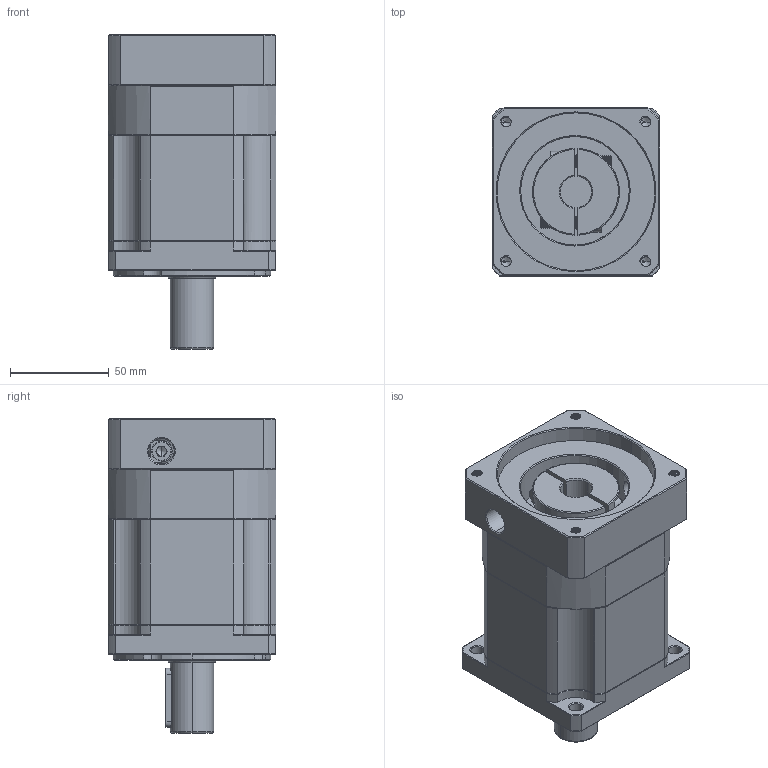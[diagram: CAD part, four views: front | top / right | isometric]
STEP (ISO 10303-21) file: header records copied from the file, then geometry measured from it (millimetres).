
FILE_DESCRIPTION (( 'STEP AP214' ), '1' );
FILE_NAME ('ZB90-D22-L2-16-80-100-M6.STEP', '2022-05-02T15:40:35', ( '' ), ( 'Microsoft' ), 'SwSTEP 2.0', 'SolidWorks 2016', '' );
FILE_SCHEMA (( 'AUTOMOTIVE_DESIGN' ));
Length unit declared in the file: millimetre
Products named in the file (1): ZB90-D22-L2-16-80-100-M6
Bounding box: 85 x 85 x 159.5 mm (x, y, z)
Volume: 722645.3 mm3; surface area: 92392.4 mm2
Topology: 4 solids, 5 shells, 1941 faces, 5066 edges, 3205 vertices
Faces by surface type: plane 886, cylinder 396, cone 333, bspline 299, torus 27
Entity records: 104706 total; most frequent: CARTESIAN_POINT 38431, ORIENTED_EDGE 10088, DIRECTION 8186, EDGE_CURVE 5044, VERTEX_POINT 3205, VECTOR 3100, LINE 3100, AXIS2_PLACEMENT_3D 2543
